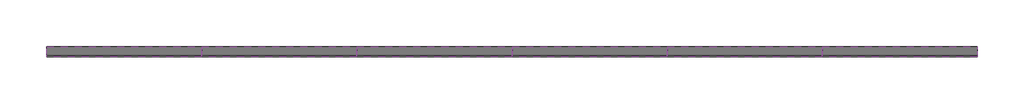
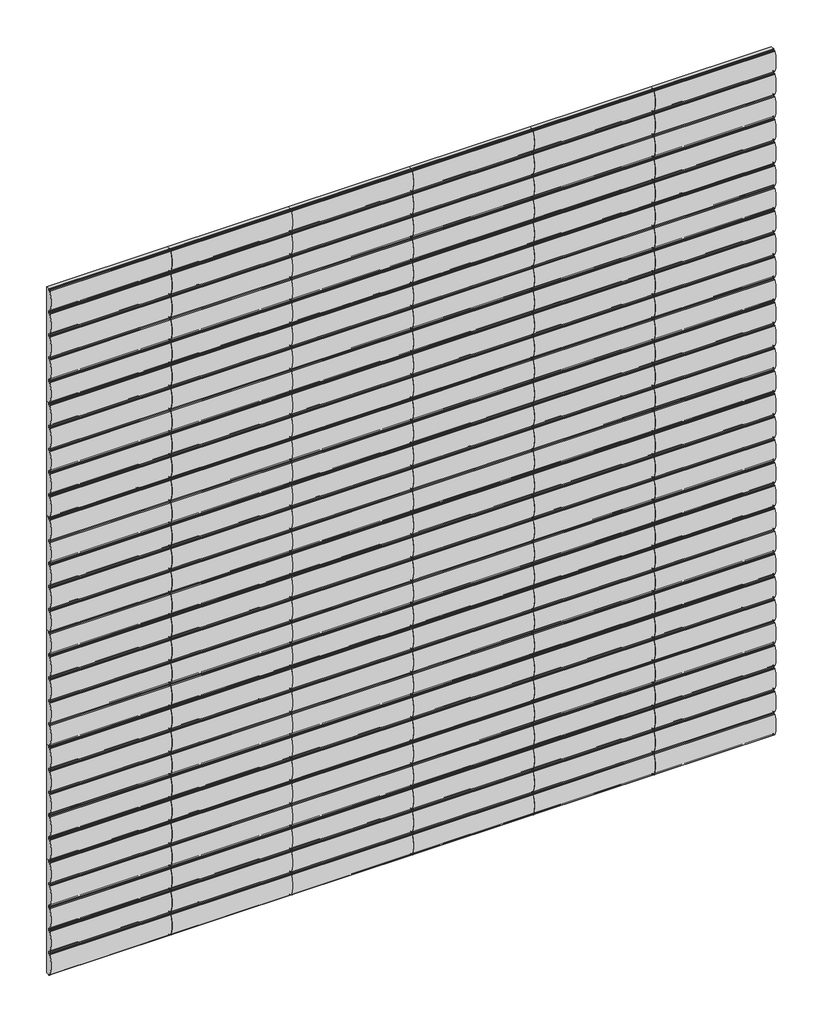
# One storey: 36 proxies.
"""IFC4 building model written with IfcOpenShell, lengths in millimetres."""

from ifc_helpers import new_model, si_unit, origin, place, context, project, spatial, transform, mapped, element, save
from components import specialty_equipment_0b573f12

model = new_model("IFC4")

# Units and contexts
model_context = context("Model", 3, world=origin())
ifc_project = project(units=[si_unit("LENGTHUNIT", "METRE", prefix="MILLI")], contexts=[model_context])

# Site, building, storey
site = spatial("IfcSite", under=ifc_project)
building = spatial("IfcBuilding", under=site)
storey = spatial("IfcBuildingStorey", under=building, Name="Nível 1", Elevation=0.0)

# Proxies
placement = place(None, origin())
specialty_equipment_shape = specialty_equipment_0b573f12(model_context)
element("IfcBuildingElementProxy", 1, Name="Spinneybeck_Porto 1 : Porto 1", ObjectType="Spinneybeck_Porto 1 : Porto 1", at=placement, inside=storey, context=model_context, shape_type="MappedRepresentation", body=[
    mapped(specialty_equipment_shape, transform((-8976.7950363, 552.5357437, 203.2), x_axis=(0.0, 0.0, 1.0), y_axis=(-1.0, 0.0, 0.0), z_axis=(0.0, -1.0, 0.0))),
])
element("IfcBuildingElementProxy", 2, Name="Spinneybeck_Porto 1 : Porto 1", ObjectType="Spinneybeck_Porto 1 : Porto 1", at=placement, inside=storey, context=model_context, shape_type="MappedRepresentation", body=[
    mapped(specialty_equipment_shape, transform((-8976.7950363, 552.5357437, 609.6), x_axis=(0.0, 0.0, 1.0), y_axis=(-1.0, 0.0, 0.0), z_axis=(0.0, -1.0, 0.0))),
])
element("IfcBuildingElementProxy", 3, Name="Spinneybeck_Porto 1 : Porto 1", ObjectType="Spinneybeck_Porto 1 : Porto 1", at=placement, inside=storey, context=model_context, shape_type="MappedRepresentation", body=[
    mapped(specialty_equipment_shape, transform((-8976.7950363, 552.5357437, 1016.0), x_axis=(0.0, 0.0, 1.0), y_axis=(-1.0, 0.0, 0.0), z_axis=(0.0, -1.0, 0.0))),
])
element("IfcBuildingElementProxy", 4, Name="Spinneybeck_Porto 1 : Porto 1", ObjectType="Spinneybeck_Porto 1 : Porto 1", at=placement, inside=storey, context=model_context, shape_type="MappedRepresentation", body=[
    mapped(specialty_equipment_shape, transform((-8976.7950363, 552.5357437, 1422.4), x_axis=(0.0, 0.0, 1.0), y_axis=(-1.0, 0.0, 0.0), z_axis=(0.0, -1.0, 0.0))),
])
element("IfcBuildingElementProxy", 5, Name="Spinneybeck_Porto 1 : Porto 1", ObjectType="Spinneybeck_Porto 1 : Porto 1", at=placement, inside=storey, context=model_context, shape_type="MappedRepresentation", body=[
    mapped(specialty_equipment_shape, transform((-8976.7950363, 552.5357437, 1828.8), x_axis=(0.0, 0.0, 1.0), y_axis=(-1.0, 0.0, 0.0), z_axis=(0.0, -1.0, 0.0))),
])
element("IfcBuildingElementProxy", 6, Name="Spinneybeck_Porto 1 : Porto 1", ObjectType="Spinneybeck_Porto 1 : Porto 1", at=placement, inside=storey, context=model_context, shape_type="MappedRepresentation", body=[
    mapped(specialty_equipment_shape, transform((-8976.7950363, 552.5357437, 2235.2), x_axis=(0.0, 0.0, 1.0), y_axis=(-1.0, 0.0, 0.0), z_axis=(0.0, -1.0, 0.0))),
])
element("IfcBuildingElementProxy", 7, Name="Spinneybeck_Porto 1 : Porto 1", ObjectType="Spinneybeck_Porto 1 : Porto 1", at=placement, inside=storey, context=model_context, shape_type="MappedRepresentation", body=[
    mapped(specialty_equipment_shape, transform((-8570.3950363, 552.5357437, 203.2), x_axis=(0.0, 0.0, 1.0), y_axis=(-1.0, 0.0, 0.0), z_axis=(0.0, -1.0, 0.0))),
])
element("IfcBuildingElementProxy", 8, Name="Spinneybeck_Porto 1 : Porto 1", ObjectType="Spinneybeck_Porto 1 : Porto 1", at=placement, inside=storey, context=model_context, shape_type="MappedRepresentation", body=[
    mapped(specialty_equipment_shape, transform((-8570.3950363, 552.5357437, 609.6), x_axis=(0.0, 0.0, 1.0), y_axis=(-1.0, 0.0, 0.0), z_axis=(0.0, -1.0, 0.0))),
])
element("IfcBuildingElementProxy", 9, Name="Spinneybeck_Porto 1 : Porto 1", ObjectType="Spinneybeck_Porto 1 : Porto 1", at=placement, inside=storey, context=model_context, shape_type="MappedRepresentation", body=[
    mapped(specialty_equipment_shape, transform((-8570.3950363, 552.5357437, 1016.0), x_axis=(0.0, 0.0, 1.0), y_axis=(-1.0, 0.0, 0.0), z_axis=(0.0, -1.0, 0.0))),
])
element("IfcBuildingElementProxy", 10, Name="Spinneybeck_Porto 1 : Porto 1", ObjectType="Spinneybeck_Porto 1 : Porto 1", at=placement, inside=storey, context=model_context, shape_type="MappedRepresentation", body=[
    mapped(specialty_equipment_shape, transform((-8570.3950363, 552.5357437, 1422.4), x_axis=(0.0, 0.0, 1.0), y_axis=(-1.0, 0.0, 0.0), z_axis=(0.0, -1.0, 0.0))),
])
element("IfcBuildingElementProxy", 11, Name="Spinneybeck_Porto 1 : Porto 1", ObjectType="Spinneybeck_Porto 1 : Porto 1", at=placement, inside=storey, context=model_context, shape_type="MappedRepresentation", body=[
    mapped(specialty_equipment_shape, transform((-8570.3950363, 552.5357437, 1828.8), x_axis=(0.0, 0.0, 1.0), y_axis=(-1.0, 0.0, 0.0), z_axis=(0.0, -1.0, 0.0))),
])
element("IfcBuildingElementProxy", 12, Name="Spinneybeck_Porto 1 : Porto 1", ObjectType="Spinneybeck_Porto 1 : Porto 1", at=placement, inside=storey, context=model_context, shape_type="MappedRepresentation", body=[
    mapped(specialty_equipment_shape, transform((-8570.3950363, 552.5357437, 2235.2), x_axis=(0.0, 0.0, 1.0), y_axis=(-1.0, 0.0, 0.0), z_axis=(0.0, -1.0, 0.0))),
])
element("IfcBuildingElementProxy", 13, Name="Spinneybeck_Porto 1 : Porto 1", ObjectType="Spinneybeck_Porto 1 : Porto 1", at=placement, inside=storey, context=model_context, shape_type="MappedRepresentation", body=[
    mapped(specialty_equipment_shape, transform((-8163.9950363, 552.5357437, 203.2), x_axis=(0.0, 0.0, 1.0), y_axis=(-1.0, 0.0, 0.0), z_axis=(0.0, -1.0, 0.0))),
])
element("IfcBuildingElementProxy", 14, Name="Spinneybeck_Porto 1 : Porto 1", ObjectType="Spinneybeck_Porto 1 : Porto 1", at=placement, inside=storey, context=model_context, shape_type="MappedRepresentation", body=[
    mapped(specialty_equipment_shape, transform((-8163.9950363, 552.5357437, 609.6), x_axis=(0.0, 0.0, 1.0), y_axis=(-1.0, 0.0, 0.0), z_axis=(0.0, -1.0, 0.0))),
])
element("IfcBuildingElementProxy", 15, Name="Spinneybeck_Porto 1 : Porto 1", ObjectType="Spinneybeck_Porto 1 : Porto 1", at=placement, inside=storey, context=model_context, shape_type="MappedRepresentation", body=[
    mapped(specialty_equipment_shape, transform((-8163.9950363, 552.5357437, 1016.0), x_axis=(0.0, 0.0, 1.0), y_axis=(-1.0, 0.0, 0.0), z_axis=(0.0, -1.0, 0.0))),
])
element("IfcBuildingElementProxy", 16, Name="Spinneybeck_Porto 1 : Porto 1", ObjectType="Spinneybeck_Porto 1 : Porto 1", at=placement, inside=storey, context=model_context, shape_type="MappedRepresentation", body=[
    mapped(specialty_equipment_shape, transform((-8163.9950363, 552.5357437, 1422.4), x_axis=(0.0, 0.0, 1.0), y_axis=(-1.0, 0.0, 0.0), z_axis=(0.0, -1.0, 0.0))),
])
element("IfcBuildingElementProxy", 17, Name="Spinneybeck_Porto 1 : Porto 1", ObjectType="Spinneybeck_Porto 1 : Porto 1", at=placement, inside=storey, context=model_context, shape_type="MappedRepresentation", body=[
    mapped(specialty_equipment_shape, transform((-8163.9950363, 552.5357437, 1828.8), x_axis=(0.0, 0.0, 1.0), y_axis=(-1.0, 0.0, 0.0), z_axis=(0.0, -1.0, 0.0))),
])
element("IfcBuildingElementProxy", 18, Name="Spinneybeck_Porto 1 : Porto 1", ObjectType="Spinneybeck_Porto 1 : Porto 1", at=placement, inside=storey, context=model_context, shape_type="MappedRepresentation", body=[
    mapped(specialty_equipment_shape, transform((-8163.9950363, 552.5357437, 2235.2), x_axis=(0.0, 0.0, 1.0), y_axis=(-1.0, 0.0, 0.0), z_axis=(0.0, -1.0, 0.0))),
])
element("IfcBuildingElementProxy", 19, Name="Spinneybeck_Porto 1 : Porto 1", ObjectType="Spinneybeck_Porto 1 : Porto 1", at=placement, inside=storey, context=model_context, shape_type="MappedRepresentation", body=[
    mapped(specialty_equipment_shape, transform((-7757.5950363, 552.5357437, 203.2), x_axis=(0.0, 0.0, 1.0), y_axis=(-1.0, 0.0, 0.0), z_axis=(0.0, -1.0, 0.0))),
])
element("IfcBuildingElementProxy", 20, Name="Spinneybeck_Porto 1 : Porto 1", ObjectType="Spinneybeck_Porto 1 : Porto 1", at=placement, inside=storey, context=model_context, shape_type="MappedRepresentation", body=[
    mapped(specialty_equipment_shape, transform((-7757.5950363, 552.5357437, 609.6), x_axis=(0.0, 0.0, 1.0), y_axis=(-1.0, 0.0, 0.0), z_axis=(0.0, -1.0, 0.0))),
])
element("IfcBuildingElementProxy", 21, Name="Spinneybeck_Porto 1 : Porto 1", ObjectType="Spinneybeck_Porto 1 : Porto 1", at=placement, inside=storey, context=model_context, shape_type="MappedRepresentation", body=[
    mapped(specialty_equipment_shape, transform((-7757.5950363, 552.5357437, 1016.0), x_axis=(0.0, 0.0, 1.0), y_axis=(-1.0, 0.0, 0.0), z_axis=(0.0, -1.0, 0.0))),
])
element("IfcBuildingElementProxy", 22, Name="Spinneybeck_Porto 1 : Porto 1", ObjectType="Spinneybeck_Porto 1 : Porto 1", at=placement, inside=storey, context=model_context, shape_type="MappedRepresentation", body=[
    mapped(specialty_equipment_shape, transform((-7757.5950363, 552.5357437, 1422.4), x_axis=(0.0, 0.0, 1.0), y_axis=(-1.0, 0.0, 0.0), z_axis=(0.0, -1.0, 0.0))),
])
element("IfcBuildingElementProxy", 23, Name="Spinneybeck_Porto 1 : Porto 1", ObjectType="Spinneybeck_Porto 1 : Porto 1", at=placement, inside=storey, context=model_context, shape_type="MappedRepresentation", body=[
    mapped(specialty_equipment_shape, transform((-7757.5950363, 552.5357437, 1828.8), x_axis=(0.0, 0.0, 1.0), y_axis=(-1.0, 0.0, 0.0), z_axis=(0.0, -1.0, 0.0))),
])
element("IfcBuildingElementProxy", 24, Name="Spinneybeck_Porto 1 : Porto 1", ObjectType="Spinneybeck_Porto 1 : Porto 1", at=placement, inside=storey, context=model_context, shape_type="MappedRepresentation", body=[
    mapped(specialty_equipment_shape, transform((-7757.5950363, 552.5357437, 2235.2), x_axis=(0.0, 0.0, 1.0), y_axis=(-1.0, 0.0, 0.0), z_axis=(0.0, -1.0, 0.0))),
])
element("IfcBuildingElementProxy", 25, Name="Spinneybeck_Porto 1 : Porto 1", ObjectType="Spinneybeck_Porto 1 : Porto 1", at=placement, inside=storey, context=model_context, shape_type="MappedRepresentation", body=[
    mapped(specialty_equipment_shape, transform((-7351.1950363, 552.5357437, 203.2), x_axis=(0.0, 0.0, 1.0), y_axis=(-1.0, 0.0, 0.0), z_axis=(0.0, -1.0, 0.0))),
])
element("IfcBuildingElementProxy", 26, Name="Spinneybeck_Porto 1 : Porto 1", ObjectType="Spinneybeck_Porto 1 : Porto 1", at=placement, inside=storey, context=model_context, shape_type="MappedRepresentation", body=[
    mapped(specialty_equipment_shape, transform((-7351.1950363, 552.5357437, 609.6), x_axis=(0.0, 0.0, 1.0), y_axis=(-1.0, 0.0, 0.0), z_axis=(0.0, -1.0, 0.0))),
])
element("IfcBuildingElementProxy", 27, Name="Spinneybeck_Porto 1 : Porto 1", ObjectType="Spinneybeck_Porto 1 : Porto 1", at=placement, inside=storey, context=model_context, shape_type="MappedRepresentation", body=[
    mapped(specialty_equipment_shape, transform((-7351.1950363, 552.5357437, 1016.0), x_axis=(0.0, 0.0, 1.0), y_axis=(-1.0, 0.0, 0.0), z_axis=(0.0, -1.0, 0.0))),
])
element("IfcBuildingElementProxy", 28, Name="Spinneybeck_Porto 1 : Porto 1", ObjectType="Spinneybeck_Porto 1 : Porto 1", at=placement, inside=storey, context=model_context, shape_type="MappedRepresentation", body=[
    mapped(specialty_equipment_shape, transform((-7351.1950363, 552.5357437, 1422.4), x_axis=(0.0, 0.0, 1.0), y_axis=(-1.0, 0.0, 0.0), z_axis=(0.0, -1.0, 0.0))),
])
element("IfcBuildingElementProxy", 29, Name="Spinneybeck_Porto 1 : Porto 1", ObjectType="Spinneybeck_Porto 1 : Porto 1", at=placement, inside=storey, context=model_context, shape_type="MappedRepresentation", body=[
    mapped(specialty_equipment_shape, transform((-7351.1950363, 552.5357437, 1828.8), x_axis=(0.0, 0.0, 1.0), y_axis=(-1.0, 0.0, 0.0), z_axis=(0.0, -1.0, 0.0))),
])
element("IfcBuildingElementProxy", 30, Name="Spinneybeck_Porto 1 : Porto 1", ObjectType="Spinneybeck_Porto 1 : Porto 1", at=placement, inside=storey, context=model_context, shape_type="MappedRepresentation", body=[
    mapped(specialty_equipment_shape, transform((-7351.1950363, 552.5357437, 2235.2), x_axis=(0.0, 0.0, 1.0), y_axis=(-1.0, 0.0, 0.0), z_axis=(0.0, -1.0, 0.0))),
])
element("IfcBuildingElementProxy", 31, Name="Spinneybeck_Porto 1 : Porto 1", ObjectType="Spinneybeck_Porto 1 : Porto 1", at=placement, inside=storey, context=model_context, shape_type="MappedRepresentation", body=[
    mapped(specialty_equipment_shape, transform((-6944.7950363, 552.5357437, 203.2), x_axis=(0.0, 0.0, 1.0), y_axis=(-1.0, 0.0, 0.0), z_axis=(0.0, -1.0, 0.0))),
])
element("IfcBuildingElementProxy", 32, Name="Spinneybeck_Porto 1 : Porto 1", ObjectType="Spinneybeck_Porto 1 : Porto 1", at=placement, inside=storey, context=model_context, shape_type="MappedRepresentation", body=[
    mapped(specialty_equipment_shape, transform((-6944.7950363, 552.5357437, 609.6), x_axis=(0.0, 0.0, 1.0), y_axis=(-1.0, 0.0, 0.0), z_axis=(0.0, -1.0, 0.0))),
])
element("IfcBuildingElementProxy", 33, Name="Spinneybeck_Porto 1 : Porto 1", ObjectType="Spinneybeck_Porto 1 : Porto 1", at=placement, inside=storey, context=model_context, shape_type="MappedRepresentation", body=[
    mapped(specialty_equipment_shape, transform((-6944.7950363, 552.5357437, 1016.0), x_axis=(0.0, 0.0, 1.0), y_axis=(-1.0, 0.0, 0.0), z_axis=(0.0, -1.0, 0.0))),
])
element("IfcBuildingElementProxy", 34, Name="Spinneybeck_Porto 1 : Porto 1", ObjectType="Spinneybeck_Porto 1 : Porto 1", at=placement, inside=storey, context=model_context, shape_type="MappedRepresentation", body=[
    mapped(specialty_equipment_shape, transform((-6944.7950363, 552.5357437, 1422.4), x_axis=(0.0, 0.0, 1.0), y_axis=(-1.0, 0.0, 0.0), z_axis=(0.0, -1.0, 0.0))),
])
element("IfcBuildingElementProxy", 35, Name="Spinneybeck_Porto 1 : Porto 1", ObjectType="Spinneybeck_Porto 1 : Porto 1", at=placement, inside=storey, context=model_context, shape_type="MappedRepresentation", body=[
    mapped(specialty_equipment_shape, transform((-6944.7950363, 552.5357437, 1828.8), x_axis=(0.0, 0.0, 1.0), y_axis=(-1.0, 0.0, 0.0), z_axis=(0.0, -1.0, 0.0))),
])
element("IfcBuildingElementProxy", 36, Name="Spinneybeck_Porto 1 : Porto 1", ObjectType="Spinneybeck_Porto 1 : Porto 1", at=placement, inside=storey, context=model_context, shape_type="MappedRepresentation", body=[
    mapped(specialty_equipment_shape, transform((-6944.7950363, 552.5357437, 2235.2), x_axis=(0.0, 0.0, 1.0), y_axis=(-1.0, 0.0, 0.0), z_axis=(0.0, -1.0, 0.0))),
])

save(model, "model.ifc")
